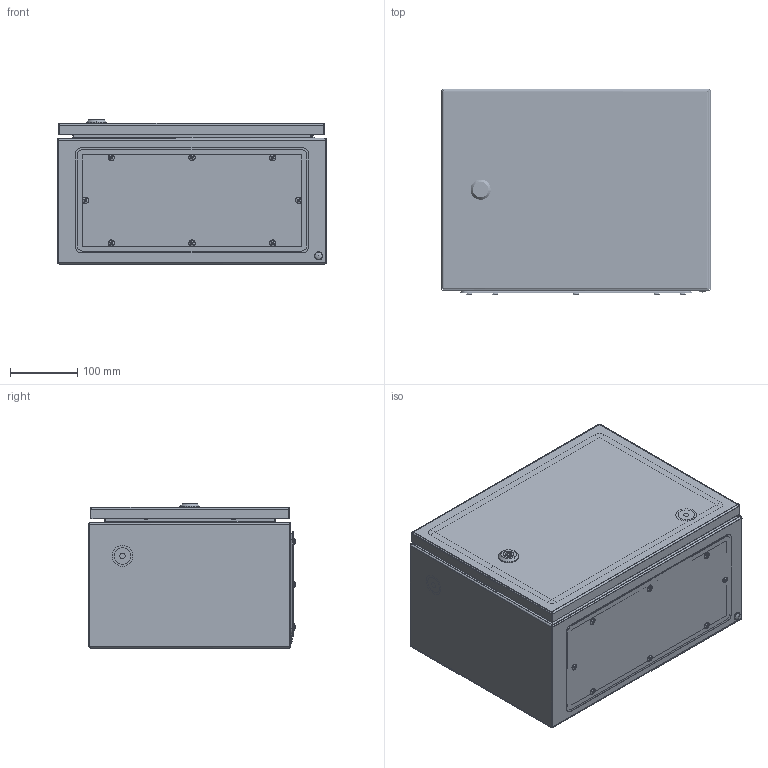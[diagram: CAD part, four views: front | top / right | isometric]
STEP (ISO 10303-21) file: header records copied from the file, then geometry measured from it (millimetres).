
FILE_DESCRIPTION (( 'STEP AP214' ), '1' );
FILE_NAME ('T-CCS 30.40.21.STEP', '2024-08-19T14:35:30', ( '' ), ( '' ), 'SwSTEP 2.0', 'SolidWorks 2019', '' );
FILE_SCHEMA (( 'AUTOMOTIVE_DESIGN' ));
Length unit declared in the file: millimetre
Products named in the file (1): T-CCS 30.40.21
Bounding box: 400 x 306.62 x 213.95 mm (x, y, z)
Volume: 1712776.1 mm3; surface area: 1756862.4 mm2
Topology: 73 solids, 73 shells, 3463 faces, 8800 edges, 5558 vertices
Faces by surface type: plane 1830, cylinder 1059, cone 284, bspline 140, torus 107, sphere 43
Entity records: 170922 total; most frequent: CARTESIAN_POINT 50101, ORIENTED_EDGE 17490, DIRECTION 16577, EDGE_CURVE 8745, AXIS2_PLACEMENT_3D 5649, VERTEX_POINT 5556, VECTOR 5279, LINE 5279
